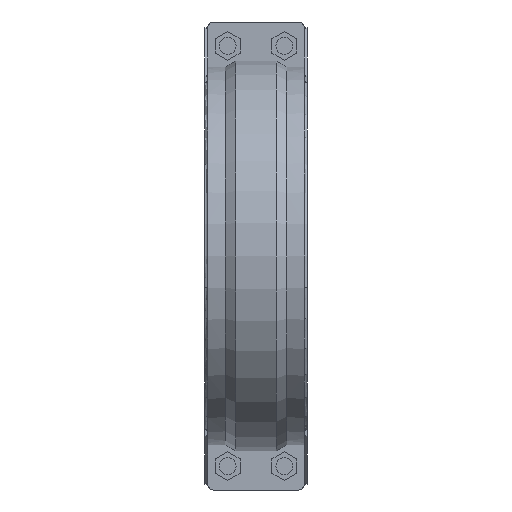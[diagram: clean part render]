
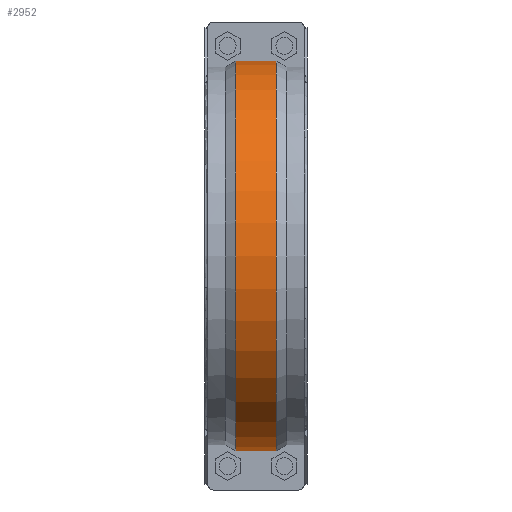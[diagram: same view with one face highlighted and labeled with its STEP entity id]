
A CAD part, front view. The second image highlights one B-rep face of the part: STEP entity #2952.
In plain terms, the highlighted cylindrical face has radius 218.054 mm (diameter 436.108 mm), a partial arc.
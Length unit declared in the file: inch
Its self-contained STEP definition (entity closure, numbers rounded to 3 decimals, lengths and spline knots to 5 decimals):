
#341=FACE_OUTER_BOUND('',#515,.T.);
#515=EDGE_LOOP('',(#2506,#2507,#2508,#2509));
#632=LINE('',#4413,#899);
#792=LINE('',#4917,#1059);
#899=VECTOR('',#3534,0.3937);
#1059=VECTOR('',#3972,0.3937);
#1121=CIRCLE('',#3119,8.58481);
#1155=CIRCLE('',#3218,8.58481);
#1269=VERTEX_POINT('',#4408);
#1270=VERTEX_POINT('',#4412);
#1315=VERTEX_POINT('',#4597);
#1414=VERTEX_POINT('',#4913);
#1571=EDGE_CURVE('',#1270,#1269,#632,.T.);
#1642=EDGE_CURVE('',#1315,#1269,#1121,.T.);
#1796=EDGE_CURVE('',#1315,#1414,#792,.T.);
#1803=EDGE_CURVE('',#1414,#1270,#1155,.T.);
#2506=ORIENTED_EDGE('',*,*,#1571,.T.);
#2507=ORIENTED_EDGE('',*,*,#1642,.F.);
#2508=ORIENTED_EDGE('',*,*,#1796,.T.);
#2509=ORIENTED_EDGE('',*,*,#1803,.T.);
#2648=CYLINDRICAL_SURFACE('',#3217,8.58481);
#2952=ADVANCED_FACE('',(#341),#2648,.T.);
#3119=AXIS2_PLACEMENT_3D('',#4601,#3669,#3670);
#3217=AXIS2_PLACEMENT_3D('',#4931,#3991,#3992);
#3218=AXIS2_PLACEMENT_3D('',#4932,#3993,#3994);
#3534=DIRECTION('',(1.,0.,0.));
#3669=DIRECTION('center_axis',(1.,0.,0.));
#3670=DIRECTION('ref_axis',(0.,0.,-1.));
#3972=DIRECTION('',(-1.,0.,0.));
#3991=DIRECTION('center_axis',(1.,0.,0.));
#3992=DIRECTION('ref_axis',(0.,-1.,0.));
#3993=DIRECTION('center_axis',(1.,0.,0.));
#3994=DIRECTION('ref_axis',(0.,0.,-1.));
#4408=CARTESIAN_POINT('',(0.9,-0.375,-8.57661));
#4412=CARTESIAN_POINT('',(-0.9,-0.375,-8.57661));
#4413=CARTESIAN_POINT('',(0.45,-0.375,-8.57661));
#4597=CARTESIAN_POINT('',(0.9,-0.375,8.57661));
#4601=CARTESIAN_POINT('Origin',(0.9,0.,0.));
#4913=CARTESIAN_POINT('',(-0.9,-0.375,8.57661));
#4917=CARTESIAN_POINT('',(0.45,-0.375,8.57661));
#4931=CARTESIAN_POINT('Origin',(0.45,0.,0.));
#4932=CARTESIAN_POINT('Origin',(-0.9,0.,0.));
